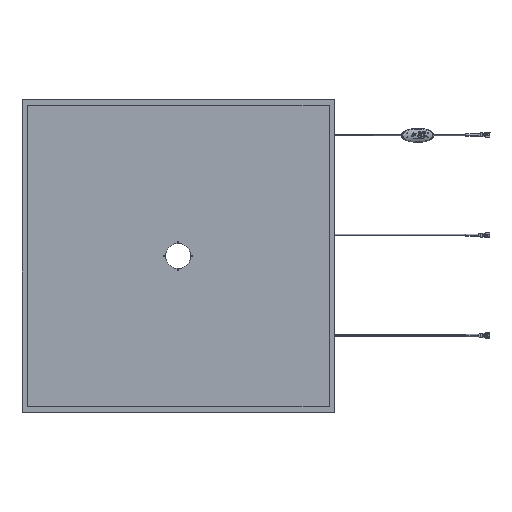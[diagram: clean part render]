
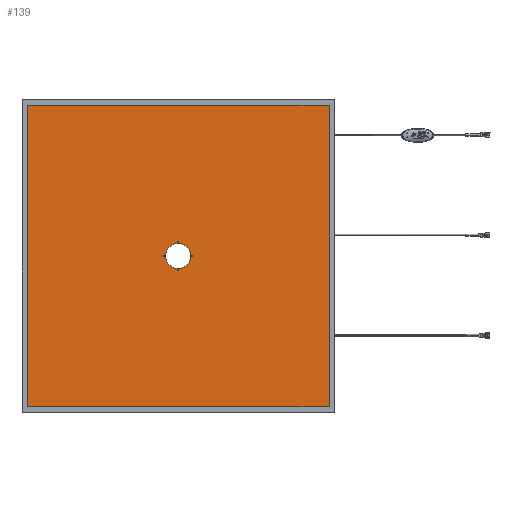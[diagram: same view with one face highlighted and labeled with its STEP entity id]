
A CAD part, top view. The second image highlights one B-rep face of the part: STEP entity #139.
In plain terms, the highlighted planar face has unit normal (0, 0, 1).
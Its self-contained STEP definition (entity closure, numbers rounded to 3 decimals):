
#25=CARTESIAN_POINT('',(155.21,130.21,35.25));
#26=VERTEX_POINT('',#25);
#27=CARTESIAN_POINT('',(155.21,155.21,35.25));
#28=DIRECTION('',(0.,-1.,0.));
#29=DIRECTION('',(0.,0.,1.));
#30=AXIS2_PLACEMENT_3D('',#27,#29,#28);
#31=CIRCLE('',#30,25.);
#32=EDGE_CURVE('',#26,#26,#31,.T.);
#53=CARTESIAN_POINT('',(155.21,155.21,35.25));
#54=DIRECTION('',(0.,-1.,0.));
#55=DIRECTION('',(-0.,0.,1.));
#56=AXIS2_PLACEMENT_3D('',#53,#55,#54);
#57=PLANE('',#56);
#58=CARTESIAN_POINT('',(-147.79,-147.79,35.25));
#59=VERTEX_POINT('',#58);
#60=CARTESIAN_POINT('',(-147.79,458.21,35.25));
#61=VERTEX_POINT('',#60);
#62=CARTESIAN_POINT('',(-147.79,-147.79,35.25));
#63=DIRECTION('',(0.,1.,0.));
#64=VECTOR('',#63,606.);
#65=LINE('',#62,#64);
#66=EDGE_CURVE('',#59,#61,#65,.T.);
#67=ORIENTED_EDGE('',*,*,#66,.F.);
#68=CARTESIAN_POINT('',(458.21,-147.79,35.25));
#69=VERTEX_POINT('',#68);
#70=CARTESIAN_POINT('',(458.21,-147.79,35.25));
#71=DIRECTION('',(-1.,0.,0.));
#72=VECTOR('',#71,606.);
#73=LINE('',#70,#72);
#74=EDGE_CURVE('',#69,#59,#73,.T.);
#75=ORIENTED_EDGE('',*,*,#74,.F.);
#76=CARTESIAN_POINT('',(458.21,458.21,35.25));
#77=VERTEX_POINT('',#76);
#78=CARTESIAN_POINT('',(458.21,458.21,35.25));
#79=DIRECTION('',(0.,-1.,0.));
#80=VECTOR('',#79,606.);
#81=LINE('',#78,#80);
#82=EDGE_CURVE('',#77,#69,#81,.T.);
#83=ORIENTED_EDGE('',*,*,#82,.F.);
#84=CARTESIAN_POINT('',(-147.79,458.21,35.25));
#85=DIRECTION('',(1.,0.,0.));
#86=VECTOR('',#85,606.);
#87=LINE('',#84,#86);
#88=EDGE_CURVE('',#61,#77,#87,.T.);
#89=ORIENTED_EDGE('',*,*,#88,.F.);
#90=EDGE_LOOP('',(#67,#75,#83,#89));
#91=FACE_OUTER_BOUND('',#90,.T.);
#92=ORIENTED_EDGE('',*,*,#32,.F.);
#93=EDGE_LOOP('',(#92));
#94=FACE_BOUND('',#93,.T.);
#95=CARTESIAN_POINT('',(183.71,155.21,35.25));
#96=VERTEX_POINT('',#95);
#97=CARTESIAN_POINT('',(182.21,155.21,35.25));
#98=DIRECTION('',(1.,0.,-0.));
#99=DIRECTION('',(0.,-0.,1.));
#100=AXIS2_PLACEMENT_3D('',#97,#99,#98);
#101=CIRCLE('',#100,1.5);
#102=EDGE_CURVE('',#96,#96,#101,.T.);
#103=ORIENTED_EDGE('',*,*,#102,.F.);
#104=EDGE_LOOP('',(#103));
#105=FACE_BOUND('',#104,.T.);
#106=CARTESIAN_POINT('',(129.71,155.21,35.25));
#107=VERTEX_POINT('',#106);
#108=CARTESIAN_POINT('',(128.21,155.21,35.25));
#109=DIRECTION('',(1.,0.,-0.));
#110=DIRECTION('',(0.,0.,1.));
#111=AXIS2_PLACEMENT_3D('',#108,#110,#109);
#112=CIRCLE('',#111,1.5);
#113=EDGE_CURVE('',#107,#107,#112,.T.);
#114=ORIENTED_EDGE('',*,*,#113,.F.);
#115=EDGE_LOOP('',(#114));
#116=FACE_BOUND('',#115,.T.);
#117=CARTESIAN_POINT('',(156.71,182.21,35.25));
#118=VERTEX_POINT('',#117);
#119=CARTESIAN_POINT('',(155.21,182.21,35.25));
#120=DIRECTION('',(1.,0.,0.));
#121=DIRECTION('',(0.,0.,1.));
#122=AXIS2_PLACEMENT_3D('',#119,#121,#120);
#123=CIRCLE('',#122,1.5);
#124=EDGE_CURVE('',#118,#118,#123,.T.);
#125=ORIENTED_EDGE('',*,*,#124,.F.);
#126=EDGE_LOOP('',(#125));
#127=FACE_BOUND('',#126,.T.);
#128=CARTESIAN_POINT('',(156.71,128.21,35.25));
#129=VERTEX_POINT('',#128);
#130=CARTESIAN_POINT('',(155.21,128.21,35.25));
#131=DIRECTION('',(1.,0.,-0.));
#132=DIRECTION('',(0.,0.,1.));
#133=AXIS2_PLACEMENT_3D('',#130,#132,#131);
#134=CIRCLE('',#133,1.5);
#135=EDGE_CURVE('',#129,#129,#134,.T.);
#136=ORIENTED_EDGE('',*,*,#135,.F.);
#137=EDGE_LOOP('',(#136));
#138=FACE_BOUND('',#137,.T.);
#139=ADVANCED_FACE('',(#91,#94,#105,#116,#127,#138),#57,.T.);
